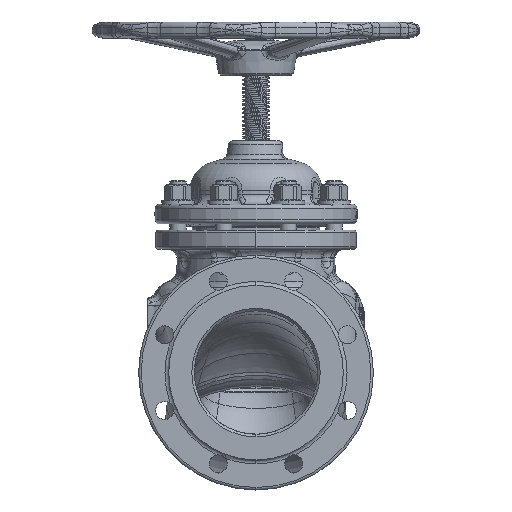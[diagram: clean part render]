
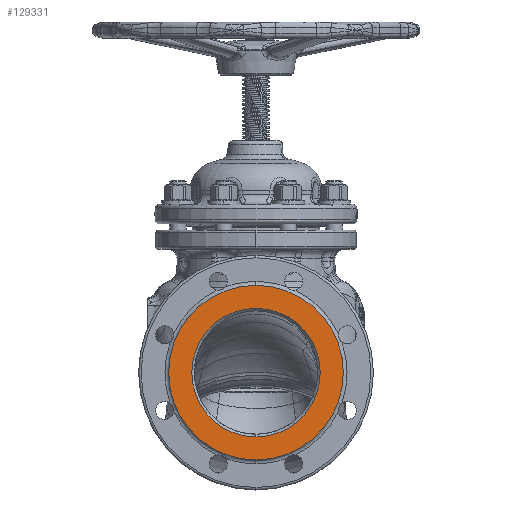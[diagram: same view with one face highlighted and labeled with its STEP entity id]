
A CAD part, left-side view. The second image highlights one B-rep face of the part: STEP entity #129331.
In plain terms, the highlighted planar face has unit normal (-1, 0, 0).
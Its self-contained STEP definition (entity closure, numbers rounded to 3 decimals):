
#25971=CARTESIAN_POINT('',(-240.,0.,0.));
#25972=DIRECTION('',(-1.,0.,0.));
#25973=DIRECTION('',(0.,0.,1.));
#25974=AXIS2_PLACEMENT_3D('',#25971,#25972,#25973);
#25976=CARTESIAN_POINT('',(-240.,0.,0.));
#25977=DIRECTION('',(-1.,0.,0.));
#25978=DIRECTION('',(0.,0.,-1.));
#25979=AXIS2_PLACEMENT_3D('',#25976,#25977,#25978);
#26129=CARTESIAN_POINT('',(-240.,0.,0.));
#26130=DIRECTION('',(-1.,0.,0.));
#26131=DIRECTION('',(0.,0.,1.));
#26132=AXIS2_PLACEMENT_3D('',#26129,#26130,#26131);
#69968=CARTESIAN_POINT('',(-240.,0.,0.));
#69969=DIRECTION('',(-1.,0.,0.));
#69970=DIRECTION('',(0.,0.,-1.));
#69971=AXIS2_PLACEMENT_3D('',#69968,#69969,#69970);
#79067=CARTESIAN_POINT('',(-240.,0.,106.));
#79068=CARTESIAN_POINT('',(-240.,0.,-106.));
#79069=VERTEX_POINT('',#79067);
#79070=VERTEX_POINT('',#79068);
#79079=CARTESIAN_POINT('',(-240.,0.,78.));
#79080=CARTESIAN_POINT('',(-240.,0.,-78.));
#79081=VERTEX_POINT('',#79079);
#79082=VERTEX_POINT('',#79080);
#129315=CARTESIAN_POINT('',(-240.,0.,0.));
#129316=DIRECTION('',(-1.,0.,0.));
#129317=DIRECTION('',(0.,0.,1.));
#129318=AXIS2_PLACEMENT_3D('',#129315,#129316,#129317);
#129319=PLANE('',#129318);
#129321=ORIENTED_EDGE('',*,*,#129320,.F.);
#129323=ORIENTED_EDGE('',*,*,#129322,.F.);
#129324=EDGE_LOOP('',(#129321,#129323));
#129325=FACE_OUTER_BOUND('',#129324,.F.);
#129326=ORIENTED_EDGE('',*,*,#129301,.T.);
#129328=ORIENTED_EDGE('',*,*,#129327,.T.);
#129329=EDGE_LOOP('',(#129326,#129328));
#129330=FACE_BOUND('',#129329,.F.);
#129331=ADVANCED_FACE('',(#129325,#129330),#129319,.T.);
#25975=CIRCLE('',#25974,78.);
#25980=CIRCLE('',#25979,78.);
#26133=CIRCLE('',#26132,106.);
#69972=CIRCLE('',#69971,106.);
#129301=EDGE_CURVE('',#79081,#79082,#25975,.T.);
#129320=EDGE_CURVE('',#79069,#79070,#26133,.T.);
#129322=EDGE_CURVE('',#79070,#79069,#69972,.T.);
#129327=EDGE_CURVE('',#79082,#79081,#25980,.T.);
